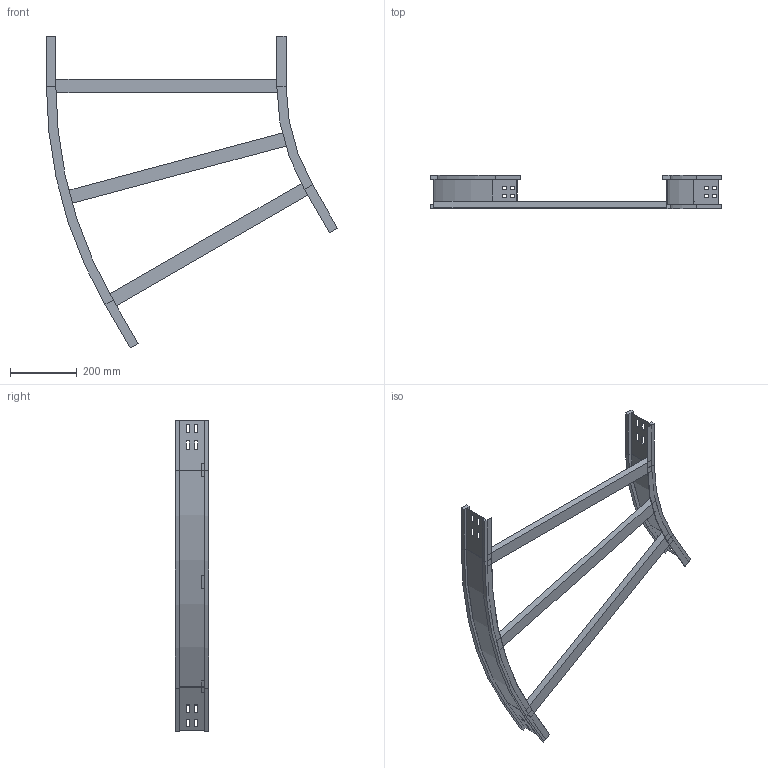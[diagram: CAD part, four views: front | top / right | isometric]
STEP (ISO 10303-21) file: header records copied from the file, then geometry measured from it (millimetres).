
FILE_DESCRIPTION (( 'STEP AP214' ), '1' );
FILE_NAME ('12S6D700.step', '2025-02-21T16:01:37', ( '' ), ( '' ), 'SwSTEP 2.0', 'SolidWorks 2023', '' );
FILE_SCHEMA (( 'AUTOMOTIVE_DESIGN' ));
Length unit declared in the file: millimetre
Products named in the file (4): 12S6D700; LONGH.ESTERNO 30°_H100_R600+700; TRAVERSINO_700; LONGH.INTERNO30°_H100_R600
Assembly tree (5 placements, depth 2):
  12S6D700
    LONGH.INTERNO30°_H100_R600
    LONGH.ESTERNO 30°_H100_R600+700
    TRAVERSINO_700  x3
Bounding box: 872.18 x 100 x 934.4 mm (x, y, z)
Volume: 2533972.7 mm3; surface area: 728090.8 mm2
Topology: 5 solids, 5 shells, 158 faces, 396 edges, 248 vertices
Faces by surface type: plane 146, cylinder 12
Entity records: 4477 total; most frequent: CARTESIAN_POINT 758, ORIENTED_EDGE 744, DIRECTION 704, EDGE_CURVE 372, LINE 348, VECTOR 348, VERTEX_POINT 232, AXIS2_PLACEMENT_3D 178
